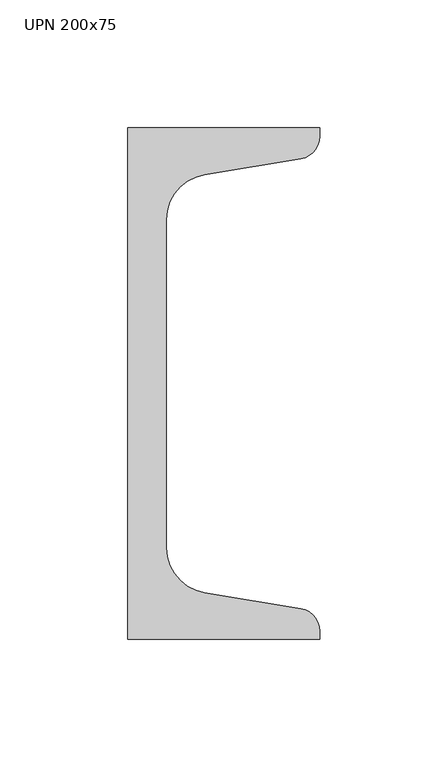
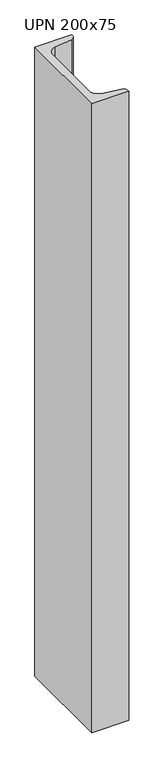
"""IFC4 building model written with IfcOpenShell, lengths in millimetres: column geometry, M_MC Shapes-Column : UPN 200x75."""

from ifc_helpers import new_model, si_unit, point, frame, frame_2d, origin, place, context, project, spatial, polyline, circle_curve, trimmed, segment, composite_curve, outline, extrude, source, transform, mapped, element, save


def upn_200x75_16539f99(model_context):
    return source(origin(), model_context, "Body", "SweptSolid", [
        extrude(outline(composite_curve([segment(polyline([(-26.4, -100.0), (-26.4, 100.0), (48.6, 100.0), (48.6, 96.7227759)]), True, "CONTINUOUS"), segment(trimmed(circle_curve(frame_2d((39.7, 96.7227759)), 8.9), [point((48.6, 96.7227759))], [point((41.1631538, 87.9438705))], False, "CARTESIAN"), True, "CONTINUOUS"), segment(polyline([(41.1631538, 87.9438705), (3.4736923, 81.662281)]), True, "CONTINUOUS"), segment(trimmed(circle_curve(frame_2d((6.4, 64.1044701)), 17.8), [point((3.4736923, 81.662281))], [point((-11.4, 64.1044701))], True, "CARTESIAN"), True, "CONTINUOUS"), segment(polyline([(-11.4, 64.1044701), (-11.4, -64.1044701)]), True, "CONTINUOUS"), segment(trimmed(circle_curve(frame_2d((6.4, -64.1044701)), 17.8), [point((-11.4, -64.1044701))], [point((3.4736923, -81.662281))], True, "CARTESIAN"), True, "CONTINUOUS"), segment(polyline([(3.4736923, -81.662281), (41.1631538, -87.9438705)]), True, "CONTINUOUS"), segment(trimmed(circle_curve(frame_2d((39.7, -96.7227759)), 8.9), [point((41.1631538, -87.9438705))], [point((48.6, -96.7227759))], False, "CARTESIAN"), True, "CONTINUOUS"), segment(polyline([(48.6, -96.7227759), (48.6, -100.0), (-26.4, -100.0)]), True, "CONTINUOUS")], self_intersect=False)), frame((0.0, 0.0, 4980.0), z_axis=(0.0, 0.0, 1.0), x_axis=(1.0, 0.0, 0.0)), (0.0, 0.0, 1.0), 1350.0),
    ])


if __name__ == "__main__":
    model = new_model("IFC4")
    model_context = context("Model", 3, world=origin())
    ifc_project = project(units=[si_unit("LENGTHUNIT", "METRE", prefix="MILLI")], contexts=[model_context])
    site = spatial("IfcSite", under=ifc_project)
    building = spatial("IfcBuilding", under=site)
    placement = place(None, origin())
    upn_200x75_shape = upn_200x75_16539f99(model_context)
    element("IfcColumn", 1, ObjectType="M_MC Shapes-Column : UPN 200x75", at=placement, inside=building, context=model_context, shape_type="MappedRepresentation", body=[
        mapped(upn_200x75_shape, transform((0.0, 0.0, 0.0), x_axis=(1.0, 0.0, 0.0), y_axis=(0.0, 1.0, 0.0), z_axis=(0.0, 0.0, 1.0))),
    ])
    save(model, "model.ifc")
